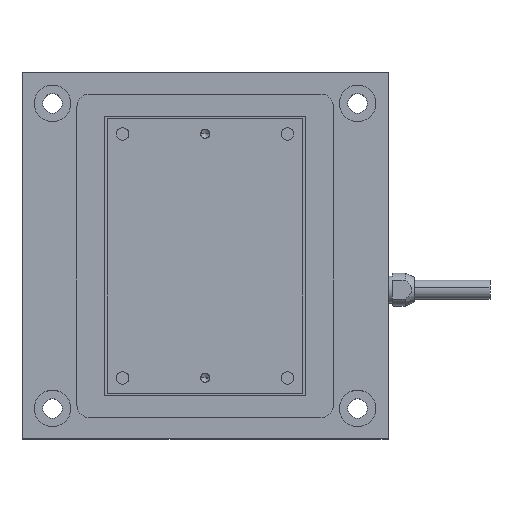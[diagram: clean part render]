
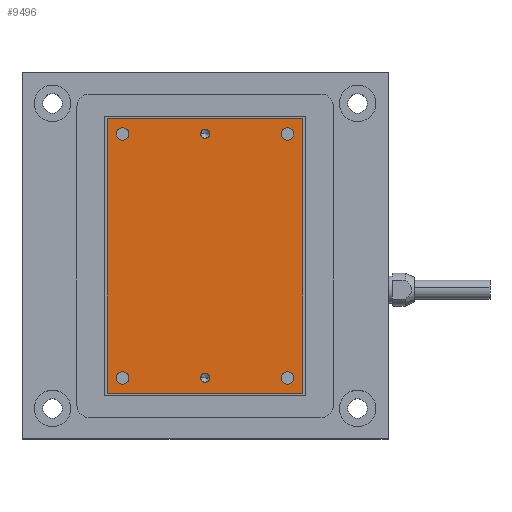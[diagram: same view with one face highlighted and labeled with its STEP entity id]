
A CAD part, top view. The second image highlights one B-rep face of the part: STEP entity #9496.
In plain terms, the highlighted planar face has unit normal (0, 0, 1).
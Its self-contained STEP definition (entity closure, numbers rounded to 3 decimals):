
#196 = ORIENTED_EDGE ( 'NONE', *, *, #8658, .F. ) ;
#197 = ORIENTED_EDGE ( 'NONE', *, *, #8716, .F. ) ;
#198 = ORIENTED_EDGE ( 'NONE', *, *, #8657, .F. ) ;
#199 = ORIENTED_EDGE ( 'NONE', *, *, #8849, .F. ) ;
#200 = ORIENTED_EDGE ( 'NONE', *, *, #11719, .F. ) ;
#201 = ORIENTED_EDGE ( 'NONE', *, *, #8848, .F. ) ;
#202 = ORIENTED_EDGE ( 'NONE', *, *, #11706, .F. ) ;
#203 = ORIENTED_EDGE ( 'NONE', *, *, #8823, .F. ) ;
#204 = ORIENTED_EDGE ( 'NONE', *, *, #11699, .F. ) ;
#205 = ORIENTED_EDGE ( 'NONE', *, *, #8817, .F. ) ;
#206 = ORIENTED_EDGE ( 'NONE', *, *, #11722, .F. ) ;
#207 = ORIENTED_EDGE ( 'NONE', *, *, #8782, .F. ) ;
#208 = ORIENTED_EDGE ( 'NONE', *, *, #8668, .F. ) ;
#209 = ORIENTED_EDGE ( 'NONE', *, *, #8664, .F. ) ;
#210 = ORIENTED_EDGE ( 'NONE', *, *, #8661, .F. ) ;
#211 = ORIENTED_EDGE ( 'NONE', *, *, #8659, .F. ) ;
#366 = AXIS2_PLACEMENT_3D ( 'NONE', #3548, #3549, #3550 ) ;
#369 = AXIS2_PLACEMENT_3D ( 'NONE', #3564, #3565, #3566 ) ;
#374 = AXIS2_PLACEMENT_3D ( 'NONE', #3595, #3596, #3597 ) ;
#376 = AXIS2_PLACEMENT_3D ( 'NONE', #3605, #3606, #3607 ) ;
#694 = CARTESIAN_POINT ( 'NONE',  ( -0.755, -20., 15. ) ) ;
#702 = CARTESIAN_POINT ( 'NONE',  ( 14.525, -20., 15. ) ) ;
#730 = CARTESIAN_POINT ( 'NONE',  ( -12.475, -20., 15. ) ) ;
#825 = CARTESIAN_POINT ( 'NONE',  ( -13.5, -20., 15. ) ) ;
#826 = DIRECTION ( 'NONE',  ( 0., 0., 1. ) ) ;
#827 = DIRECTION ( 'NONE',  ( 1., 0., 0. ) ) ;
#829 = CARTESIAN_POINT ( 'NONE',  ( 0., 20., 15. ) ) ;
#830 = DIRECTION ( 'NONE',  ( 0., 0., 1. ) ) ;
#831 = DIRECTION ( 'NONE',  ( 1., 0., 0. ) ) ;
#1051 = CARTESIAN_POINT ( 'NONE',  ( 13.5, 20., 15. ) ) ;
#1053 = DIRECTION ( 'NONE',  ( 0., 0., 1. ) ) ;
#1055 = DIRECTION ( 'NONE',  ( 1., 0., 0. ) ) ;
#1223 = CARTESIAN_POINT ( 'NONE',  ( -13.5, 20., 15. ) ) ;
#1224 = DIRECTION ( 'NONE',  ( 0., 0., 1. ) ) ;
#1225 = DIRECTION ( 'NONE',  ( 1., 0., 0. ) ) ;
#1237 = CARTESIAN_POINT ( 'NONE',  ( 13.5, -20., 15. ) ) ;
#1238 = DIRECTION ( 'NONE',  ( 0., 0., 1. ) ) ;
#1239 = DIRECTION ( 'NONE',  ( 1., 0., 0. ) ) ;
#1280 = CARTESIAN_POINT ( 'NONE',  ( 0.755, 20., 15. ) ) ;
#1293 = CARTESIAN_POINT ( 'NONE',  ( -0.755, 20., 15. ) ) ;
#1314 = CARTESIAN_POINT ( 'NONE',  ( -14.525, 20., 15. ) ) ;
#2975 = CARTESIAN_POINT ( 'NONE',  ( 12.475, -20., 15. ) ) ;
#2991 = CARTESIAN_POINT ( 'NONE',  ( 16., -22.5, 15. ) ) ;
#3012 = CARTESIAN_POINT ( 'NONE',  ( 16., 22.5, 15. ) ) ;
#3023 = CARTESIAN_POINT ( 'NONE',  ( 14.525, 20., 15. ) ) ;
#3030 = CARTESIAN_POINT ( 'NONE',  ( -16., 22.5, 15. ) ) ;
#3046 = CARTESIAN_POINT ( 'NONE',  ( -12.475, 20., 15. ) ) ;
#3056 = CARTESIAN_POINT ( 'NONE',  ( 12.475, 20., 15. ) ) ;
#3115 = CARTESIAN_POINT ( 'NONE',  ( 0., -20., 15. ) ) ;
#3116 = DIRECTION ( 'NONE',  ( 0., 0., 1. ) ) ;
#3117 = DIRECTION ( 'NONE',  ( 1., 0., 0. ) ) ;
#3258 = DIRECTION ( 'NONE',  ( 0., -1., 0. ) ) ;
#3263 = CARTESIAN_POINT ( 'NONE',  ( 0., 20., 15. ) ) ;
#3264 = DIRECTION ( 'NONE',  ( 0., 0., 1. ) ) ;
#3265 = DIRECTION ( 'NONE',  ( 1., 0., 0. ) ) ;
#3267 = CARTESIAN_POINT ( 'NONE',  ( 16., -22.5, 15. ) ) ;
#3268 = CARTESIAN_POINT ( 'NONE',  ( 0., -20., 15. ) ) ;
#3269 = DIRECTION ( 'NONE',  ( 0., 0., 1. ) ) ;
#3270 = DIRECTION ( 'NONE',  ( 1., 0., 0. ) ) ;
#3273 = CARTESIAN_POINT ( 'NONE',  ( -16., -22.5, 15. ) ) ;
#3275 = DIRECTION ( 'NONE',  ( -1., 0., 0. ) ) ;
#3279 = CARTESIAN_POINT ( 'NONE',  ( -16., -22.5, 15. ) ) ;
#3280 = DIRECTION ( 'NONE',  ( 0., 1., 0. ) ) ;
#3286 = CARTESIAN_POINT ( 'NONE',  ( -16., 22.5, 15. ) ) ;
#3287 = DIRECTION ( 'NONE',  ( 1., 0., 0. ) ) ;
#3548 = CARTESIAN_POINT ( 'NONE',  ( -13.5, 20., 15. ) ) ;
#3549 = DIRECTION ( 'NONE',  ( 0., 0., 1. ) ) ;
#3550 = DIRECTION ( 'NONE',  ( 1., 0., 0. ) ) ;
#3564 = CARTESIAN_POINT ( 'NONE',  ( 13.5, -20., 15. ) ) ;
#3565 = DIRECTION ( 'NONE',  ( 0., 0., 1. ) ) ;
#3566 = DIRECTION ( 'NONE',  ( 1., 0., 0. ) ) ;
#3595 = CARTESIAN_POINT ( 'NONE',  ( -13.5, -20., 15. ) ) ;
#3596 = DIRECTION ( 'NONE',  ( 0., 0., 1. ) ) ;
#3597 = DIRECTION ( 'NONE',  ( 1., 0., 0. ) ) ;
#3605 = CARTESIAN_POINT ( 'NONE',  ( 13.5, 20., 15. ) ) ;
#3606 = DIRECTION ( 'NONE',  ( 0., 0., 1. ) ) ;
#3607 = DIRECTION ( 'NONE',  ( 1., 0., 0. ) ) ;
#3911 = CARTESIAN_POINT ( 'NONE',  ( -16., -22.5, 15. ) ) ;
#3914 = CARTESIAN_POINT ( 'NONE',  ( -14.525, -20., 15. ) ) ;
#3922 = CARTESIAN_POINT ( 'NONE',  ( 0.755, -20., 15. ) ) ;
#4906 = VERTEX_POINT ( 'NONE', #1280 ) ;
#4919 = VERTEX_POINT ( 'NONE', #1293 ) ;
#4940 = VERTEX_POINT ( 'NONE', #1314 ) ;
#4955 = VERTEX_POINT ( 'NONE', #3911 ) ;
#4958 = VERTEX_POINT ( 'NONE', #3914 ) ;
#4966 = VERTEX_POINT ( 'NONE', #3922 ) ;
#5788 = EDGE_LOOP ( 'NONE', ( #196, #197 ) ) ;
#5790 = EDGE_LOOP ( 'NONE', ( #206, #207 ) ) ;
#5793 = EDGE_LOOP ( 'NONE', ( #202, #203 ) ) ;
#5797 = EDGE_LOOP ( 'NONE', ( #198, #199 ) ) ;
#5798 = EDGE_LOOP ( 'NONE', ( #204, #205 ) ) ;
#5800 = EDGE_LOOP ( 'NONE', ( #200, #201 ) ) ;
#5802 = EDGE_LOOP ( 'NONE', ( #208, #209, #210, #211 ) ) ;
#7343 = CIRCLE ( 'NONE', #376, 1.025 ) ;
#8657 = EDGE_CURVE ( 'NONE', #4906, #4919, #13181, .T. ) ;
#8658 = EDGE_CURVE ( 'NONE', #4966, #13602, #13183, .T. ) ;
#8659 = EDGE_CURVE ( 'NONE', #13552, #13531, #13184, .T. ) ;
#8661 = EDGE_CURVE ( 'NONE', #13531, #4955, #13188, .T. ) ;
#8664 = EDGE_CURVE ( 'NONE', #4955, #13570, #13194, .T. ) ;
#8668 = EDGE_CURVE ( 'NONE', #13570, #13552, #13202, .T. ) ;
#8716 = EDGE_CURVE ( 'NONE', #13602, #4966, #13277, .T. ) ;
#8782 = EDGE_CURVE ( 'NONE', #13596, #13563, #13378, .T. ) ;
#8817 = EDGE_CURVE ( 'NONE', #4940, #13586, #12855, .T. ) ;
#8823 = EDGE_CURVE ( 'NONE', #13515, #13610, #12864, .T. ) ;
#8848 = EDGE_CURVE ( 'NONE', #4958, #13638, #12906, .T. ) ;
#8849 = EDGE_CURVE ( 'NONE', #4919, #4906, #12908, .T. ) ;
#9496 = ADVANCED_FACE ( 'NONE', ( #13121, #13126, #13123, #13125, #13114, #13127, #13128 ), #12123, .T. ) ;
#10224 = CIRCLE ( 'NONE', #366, 1.025 ) ;
#10234 = CIRCLE ( 'NONE', #369, 1.025 ) ;
#10255 = CIRCLE ( 'NONE', #374, 1.025 ) ;
#11042 = AXIS2_PLACEMENT_3D ( 'NONE', #3263, #3264, #3265 ) ;
#11044 = AXIS2_PLACEMENT_3D ( 'NONE', #3268, #3269, #3270 ) ;
#11090 = AXIS2_PLACEMENT_3D ( 'NONE', #3115, #3116, #3117 ) ;
#11143 = AXIS2_PLACEMENT_3D ( 'NONE', #1051, #1053, #1055 ) ;
#11166 = AXIS2_PLACEMENT_3D ( 'NONE', #1223, #1224, #1225 ) ;
#11169 = AXIS2_PLACEMENT_3D ( 'NONE', #1237, #1238, #1239 ) ;
#11184 = AXIS2_PLACEMENT_3D ( 'NONE', #825, #826, #827 ) ;
#11186 = AXIS2_PLACEMENT_3D ( 'NONE', #829, #830, #831 ) ;
#11699 = EDGE_CURVE ( 'NONE', #13586, #4940, #10224, .T. ) ;
#11706 = EDGE_CURVE ( 'NONE', #13610, #13515, #10234, .T. ) ;
#11719 = EDGE_CURVE ( 'NONE', #13638, #4958, #10255, .T. ) ;
#11722 = EDGE_CURVE ( 'NONE', #13563, #13596, #7343, .T. ) ;
#12123 = PLANE ( 'NONE',  #13831 ) ;
#12124 = DIRECTION ( 'NONE',  ( 0., 0., 1. ) ) ;
#12129 = CARTESIAN_POINT ( 'NONE',  ( 16., 22.5, 15. ) ) ;
#12130 = DIRECTION ( 'NONE',  ( 1., 0., 0. ) ) ;
#12855 = CIRCLE ( 'NONE', #11166, 1.025 ) ;
#12864 = CIRCLE ( 'NONE', #11169, 1.025 ) ;
#12906 = CIRCLE ( 'NONE', #11184, 1.025 ) ;
#12908 = CIRCLE ( 'NONE', #11186, 0.755 ) ;
#13114 = FACE_BOUND ( 'NONE', #5798, .T. ) ;
#13121 = FACE_BOUND ( 'NONE', #5788, .T. ) ;
#13123 = FACE_BOUND ( 'NONE', #5800, .T. ) ;
#13125 = FACE_BOUND ( 'NONE', #5793, .T. ) ;
#13126 = FACE_BOUND ( 'NONE', #5797, .T. ) ;
#13127 = FACE_BOUND ( 'NONE', #5790, .T. ) ;
#13128 = FACE_OUTER_BOUND ( 'NONE', #5802, .T. ) ;
#13181 = CIRCLE ( 'NONE', #11042, 0.755 ) ;
#13183 = CIRCLE ( 'NONE', #11044, 0.755 ) ;
#13184 = LINE ( 'NONE', #3267, #13187 ) ;
#13187 = VECTOR ( 'NONE', #3258, 1000. ) ;
#13188 = LINE ( 'NONE', #3273, #13191 ) ;
#13191 = VECTOR ( 'NONE', #3275, 1000. ) ;
#13194 = LINE ( 'NONE', #3279, #13197 ) ;
#13197 = VECTOR ( 'NONE', #3280, 1000. ) ;
#13202 = LINE ( 'NONE', #3286, #13205 ) ;
#13205 = VECTOR ( 'NONE', #3287, 1000. ) ;
#13277 = CIRCLE ( 'NONE', #11090, 0.755 ) ;
#13378 = CIRCLE ( 'NONE', #11143, 1.025 ) ;
#13515 = VERTEX_POINT ( 'NONE', #2975 ) ;
#13531 = VERTEX_POINT ( 'NONE', #2991 ) ;
#13552 = VERTEX_POINT ( 'NONE', #3012 ) ;
#13563 = VERTEX_POINT ( 'NONE', #3023 ) ;
#13570 = VERTEX_POINT ( 'NONE', #3030 ) ;
#13586 = VERTEX_POINT ( 'NONE', #3046 ) ;
#13596 = VERTEX_POINT ( 'NONE', #3056 ) ;
#13602 = VERTEX_POINT ( 'NONE', #694 ) ;
#13610 = VERTEX_POINT ( 'NONE', #702 ) ;
#13638 = VERTEX_POINT ( 'NONE', #730 ) ;
#13831 = AXIS2_PLACEMENT_3D ( 'NONE', #12129, #12124, #12130 ) ;
